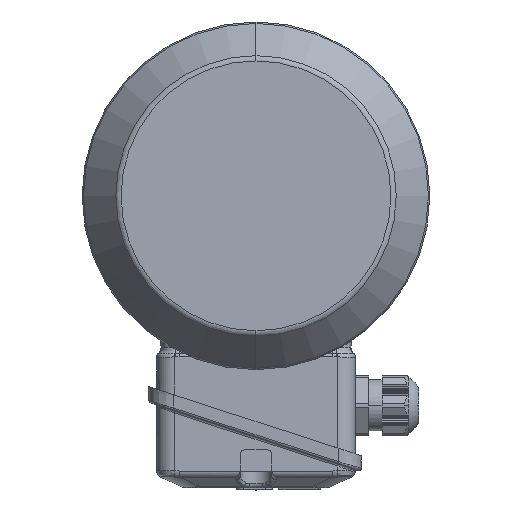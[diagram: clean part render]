
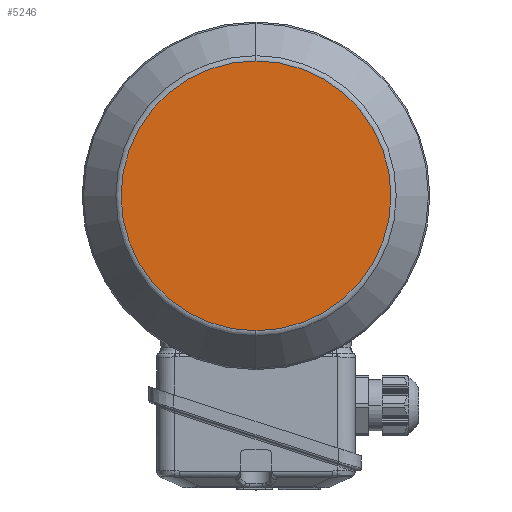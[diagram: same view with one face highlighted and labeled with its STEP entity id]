
A CAD part, left-side view. The second image highlights one B-rep face of the part: STEP entity #5246.
In plain terms, the highlighted planar face has unit normal (-1, 0, 0).
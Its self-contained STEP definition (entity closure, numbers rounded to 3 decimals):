
#539 = DIRECTION ( 'NONE',  ( 1., 0., 0. ) ) ;
#2891 = CIRCLE ( 'NONE', #19504, 60.537 ) ;
#3261 = DIRECTION ( 'NONE',  ( 0., 0., -1. ) ) ;
#4020 = EDGE_LOOP ( 'NONE', ( #11084, #5665 ) ) ;
#5246 = ADVANCED_FACE ( 'NONE', ( #12083 ), #32431, .T. ) ;
#5665 = ORIENTED_EDGE ( 'NONE', *, *, #18922, .F. ) ;
#9355 = CARTESIAN_POINT ( 'NONE',  ( -140.15, 0., 0. ) ) ;
#9882 = CARTESIAN_POINT ( 'NONE',  ( -140.15, 0., -60.537 ) ) ;
#10811 = CARTESIAN_POINT ( 'NONE',  ( -140.15, 0., 60.537 ) ) ;
#11084 = ORIENTED_EDGE ( 'NONE', *, *, #14682, .F. ) ;
#11658 = DIRECTION ( 'NONE',  ( 1., 0., 0. ) ) ;
#12083 = FACE_OUTER_BOUND ( 'NONE', #4020, .T. ) ;
#12753 = DIRECTION ( 'NONE',  ( 0., 1., 0. ) ) ;
#14682 = EDGE_CURVE ( 'NONE', #36484, #30097, #2891, .T. ) ;
#16124 = AXIS2_PLACEMENT_3D ( 'NONE', #9882, #30048, #12753 ) ;
#17610 = CARTESIAN_POINT ( 'NONE',  ( -140.15, 0., 0. ) ) ;
#18922 = EDGE_CURVE ( 'NONE', #30097, #36484, #36491, .T. ) ;
#19504 = AXIS2_PLACEMENT_3D ( 'NONE', #17610, #11658, #3261 ) ;
#21087 = DIRECTION ( 'NONE',  ( 0., 0., -1. ) ) ;
#23610 = AXIS2_PLACEMENT_3D ( 'NONE', #9355, #539, #21087 ) ;
#26496 = CARTESIAN_POINT ( 'NONE',  ( -140.15, 0., -60.537 ) ) ;
#30048 = DIRECTION ( 'NONE',  ( -1., 0., 0. ) ) ;
#30097 = VERTEX_POINT ( 'NONE', #10811 ) ;
#32431 = PLANE ( 'NONE',  #16124 ) ;
#36484 = VERTEX_POINT ( 'NONE', #26496 ) ;
#36491 = CIRCLE ( 'NONE', #23610, 60.537 ) ;
